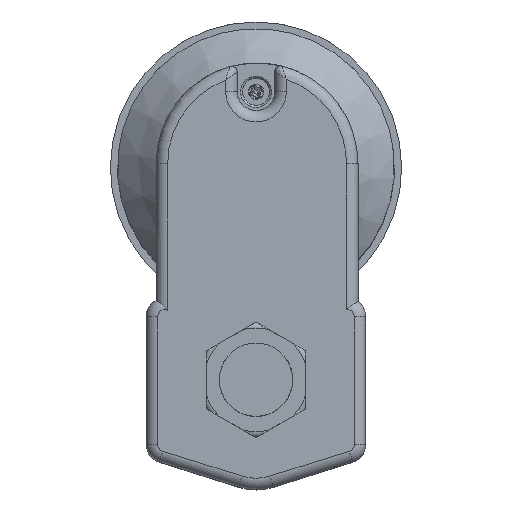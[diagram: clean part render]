
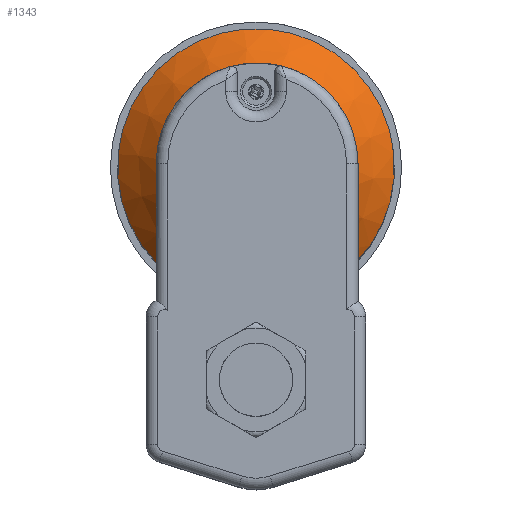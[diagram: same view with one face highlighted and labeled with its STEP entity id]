
A CAD part, top view. The second image highlights one B-rep face of the part: STEP entity #1343.
In plain terms, the highlighted conical face has half-angle 45 degrees and reference radius 48 mm.
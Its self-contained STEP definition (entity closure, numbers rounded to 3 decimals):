
#1 = DIRECTION ( 'NONE',  ( 0., -1., 0. ) ) ;
#17 = CARTESIAN_POINT ( 'NONE',  ( 13.307, 33.888, 59.348 ) ) ;
#18 = CARTESIAN_POINT ( 'NONE',  ( 12.13, 33.83, 59.65 ) ) ;
#19 = CARTESIAN_POINT ( 'NONE',  ( 16.801, 34.078, 58.337 ) ) ;
#20 = CARTESIAN_POINT ( 'NONE',  ( 19.078, 34.224, 57.523 ) ) ;
#21 = CARTESIAN_POINT ( 'NONE',  ( 25.745, 34.688, 54.629 ) ) ;
#22 = CARTESIAN_POINT ( 'NONE',  ( 23.55, 34.529, 55.668 ) ) ;
#28 = DIRECTION ( 'NONE',  ( 0., 0., 1. ) ) ;
#274 = AXIS2_PLACEMENT_3D ( 'NONE', #3984, #3985, #3974 ) ;
#728 = EDGE_CURVE ( 'NONE', #2079, #2080, #2547, .T. ) ;
#729 = EDGE_CURVE ( 'NONE', #2080, #2079, #3284, .T. ) ;
#731 = EDGE_CURVE ( 'NONE', #5572, #5572, #2549, .T. ) ;
#887 = AXIS2_PLACEMENT_3D ( 'NONE', #3295, #3305, #3308 ) ;
#923 = AXIS2_PLACEMENT_3D ( 'NONE', #5897, #28, #1 ) ;
#1185 = FACE_OUTER_BOUND ( 'NONE', #2936, .T. ) ;
#1191 = FACE_BOUND ( 'NONE', #2932, .T. ) ;
#1192 = CONICAL_SURFACE ( 'NONE', #274, 48., 0.785 ) ;
#1343 = ADVANCED_FACE ( 'NONE', ( #1191, #1185 ), #1192, .T. ) ;
#2079 = VERTEX_POINT ( 'NONE', #5470 ) ;
#2080 = VERTEX_POINT ( 'NONE', #5471 ) ;
#2547 = CIRCLE ( 'NONE', #887, 48. ) ;
#2549 = CIRCLE ( 'NONE', #923, 34. ) ;
#2932 = EDGE_LOOP ( 'NONE', ( #3191 ) ) ;
#2936 = EDGE_LOOP ( 'NONE', ( #3192, #3193 ) ) ;
#3191 = ORIENTED_EDGE ( 'NONE', *, *, #731, .F. ) ;
#3192 = ORIENTED_EDGE ( 'NONE', *, *, #728, .T. ) ;
#3193 = ORIENTED_EDGE ( 'NONE', *, *, #729, .T. ) ;
#3284 = B_SPLINE_CURVE_WITH_KNOTS ( 'NONE', 3,
 ( #3299, #3303, #3291, #3286, #3307, #3296, #3301, #3287, #3306, #3290, #3304, #3285, #3293, #3302, #3288, #3297, #3300, #3292, #3289, #18, #17, #19, #20, #22, #21, #5900 ),
 .UNSPECIFIED., .F., .F.,
 ( 4, 2, 2, 2, 2, 2, 2, 2, 2, 2, 2, 2, 4 ),
 ( 0., 0.004, 0.007, 0.015, 0.018, 0.022, 0.026, 0.029, 0.037, 0.04, 0.044, 0.051, 0.059 ),
 .UNSPECIFIED. ) ;
#3285 = CARTESIAN_POINT ( 'NONE',  ( -6.081, 33.605, 60.767 ) ) ;
#3286 = CARTESIAN_POINT ( 'NONE',  ( -23.531, 34.53, 55.644 ) ) ;
#3287 = CARTESIAN_POINT ( 'NONE',  ( -13.28, 33.887, 59.356 ) ) ;
#3288 = CARTESIAN_POINT ( 'NONE',  ( -1.188, 33.529, 61.13 ) ) ;
#3289 = CARTESIAN_POINT ( 'NONE',  ( 9.746, 33.726, 60.177 ) ) ;
#3290 = CARTESIAN_POINT ( 'NONE',  ( -9.715, 33.725, 60.183 ) ) ;
#3291 = CARTESIAN_POINT ( 'NONE',  ( -25.733, 34.688, 54.609 ) ) ;
#3292 = CARTESIAN_POINT ( 'NONE',  ( 8.537, 33.68, 60.402 ) ) ;
#3293 = CARTESIAN_POINT ( 'NONE',  ( -4.863, 33.577, 60.903 ) ) ;
#3295 = CARTESIAN_POINT ( 'NONE',  ( 0., 73.9, 53.5 ) ) ;
#3296 = CARTESIAN_POINT ( 'NONE',  ( -19.06, 34.223, 57.53 ) ) ;
#3297 = CARTESIAN_POINT ( 'NONE',  ( 2.477, 33.529, 61.127 ) ) ;
#3299 = CARTESIAN_POINT ( 'NONE',  ( -27.908, 34.847, 53.5 ) ) ;
#3300 = CARTESIAN_POINT ( 'NONE',  ( 4.908, 33.569, 60.942 ) ) ;
#3301 = CARTESIAN_POINT ( 'NONE',  ( -16.779, 34.077, 58.344 ) ) ;
#3302 = CARTESIAN_POINT ( 'NONE',  ( -2.415, 33.538, 61.085 ) ) ;
#3303 = CARTESIAN_POINT ( 'NONE',  ( -26.826, 34.768, 54.065 ) ) ;
#3304 = CARTESIAN_POINT ( 'NONE',  ( -8.505, 33.679, 60.407 ) ) ;
#3305 = DIRECTION ( 'NONE',  ( 0., 0., 1. ) ) ;
#3306 = CARTESIAN_POINT ( 'NONE',  ( -12.101, 33.829, 59.657 ) ) ;
#3307 = CARTESIAN_POINT ( 'NONE',  ( -22.421, 34.452, 56.137 ) ) ;
#3308 = DIRECTION ( 'NONE',  ( 0., -1., 0. ) ) ;
#3974 = DIRECTION ( 'NONE',  ( 0., 1., 0. ) ) ;
#3984 = CARTESIAN_POINT ( 'NONE',  ( 0., 73.9, 53.5 ) ) ;
#3985 = DIRECTION ( 'NONE',  ( 0., 0., -1. ) ) ;
#5470 = CARTESIAN_POINT ( 'NONE',  ( 27.908, 34.847, 53.5 ) ) ;
#5471 = CARTESIAN_POINT ( 'NONE',  ( -27.908, 34.847, 53.5 ) ) ;
#5572 = VERTEX_POINT ( 'NONE', #5577 ) ;
#5577 = CARTESIAN_POINT ( 'NONE',  ( 0., 39.9, 67.5 ) ) ;
#5897 = CARTESIAN_POINT ( 'NONE',  ( 0., 73.9, 67.5 ) ) ;
#5900 = CARTESIAN_POINT ( 'NONE',  ( 27.908, 34.847, 53.5 ) ) ;
